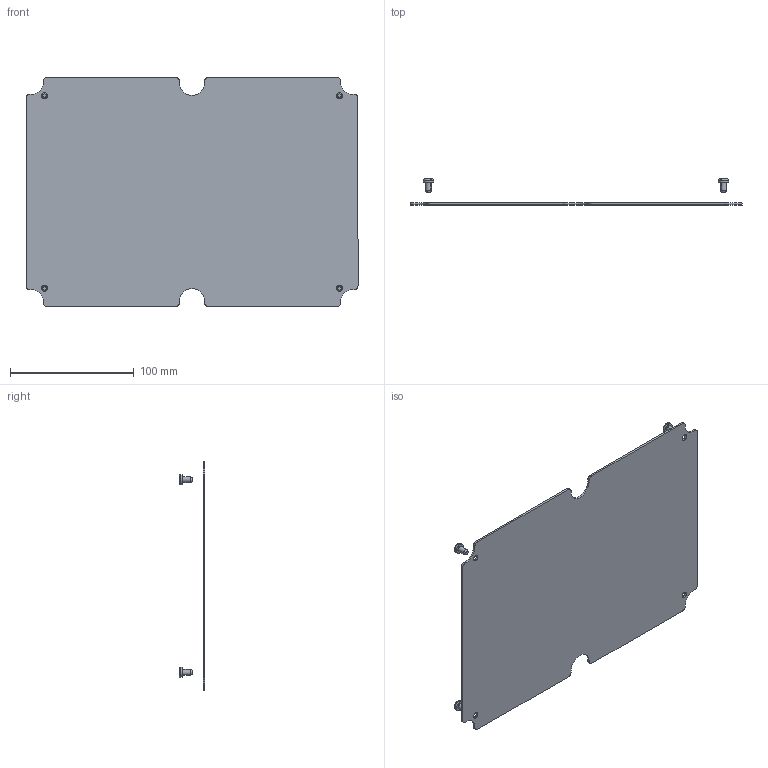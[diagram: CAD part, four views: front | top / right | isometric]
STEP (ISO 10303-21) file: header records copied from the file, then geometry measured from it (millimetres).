
FILE_DESCRIPTION (( 'STEP AP214' ), '1' );
FILE_NAME ('HN-88default.STEP', '2025-12-03T20:28:30', ( '' ), ( '' ), 'SwSTEP 2.0', 'SolidWorks 2025', '' );
FILE_SCHEMA (( 'AUTOMOTIVE_DESIGN' ));
Length unit declared in the file: inch
Products named in the file (3): HN-88P_default; SCREWS-032_SCREWS-032; HN-88default
Assembly tree (5 placements, depth 2):
  HN-88default
    HN-88P_default
    SCREWS-032_SCREWS-032  x4
Bounding box: 268.02 x 20.95 x 185.42 mm (x, y, z)
Volume: 77841 mm3; surface area: 99531.1 mm2
Topology: 5 solids, 5 shells, 159 faces, 407 edges, 266 vertices
Faces by surface type: plane 100, cylinder 43, cone 8, torus 8
Entity records: 2511 total; most frequent: DIRECTION 437, CARTESIAN_POINT 420, ORIENTED_EDGE 406, EDGE_CURVE 203, AXIS2_PLACEMENT_3D 151, LINE 135, VECTOR 135, VERTEX_POINT 134
